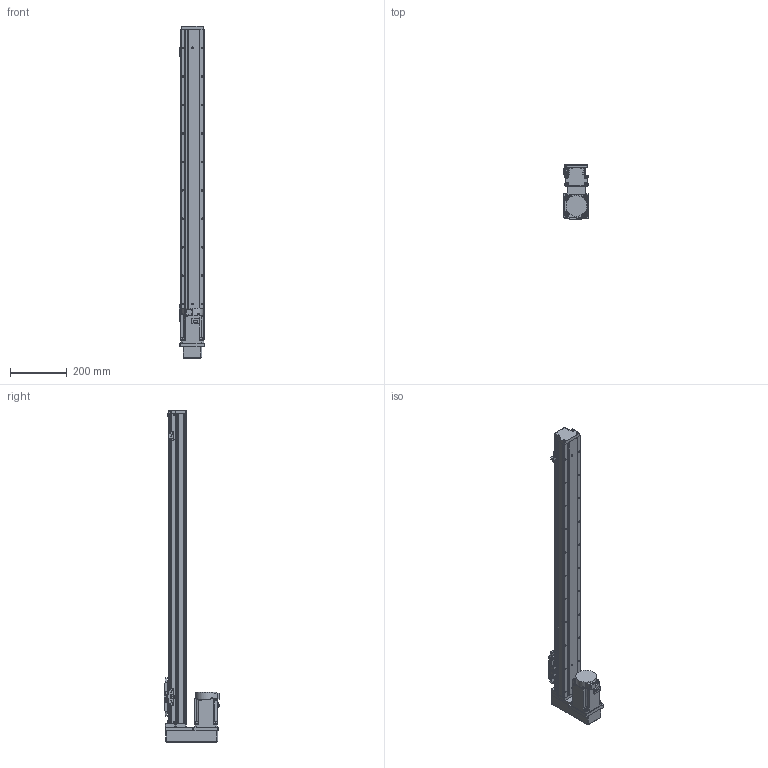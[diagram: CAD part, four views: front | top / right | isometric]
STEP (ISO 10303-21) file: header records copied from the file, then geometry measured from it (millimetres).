
FILE_DESCRIPTION (( 'STEP AP203' ), '1' );
FILE_NAME ('GTH8-900-BM-M75-C4.step', '2023-02-14T02:30:16', ( '微软用户' ), ( '微软中国' ), 'SwSTEP 2.0', 'SolidWorks 2020', '' );
FILE_SCHEMA (( 'CONFIG_CONTROL_DESIGN' ));
Length unit declared in the file: millimetre
Products named in the file (18): GTH80-022; BTH-M3X5X6; GTH80-001_900; GBT 70.1-M3℅6; CTHA86-015-3_CTHA86-015-4; GTH80-003; GBT 70.1-M4×16; CTHA86-035; GTH80-004; GTH80-028; hg-kn73j_-s100; GTH80-006; GTH50-024; GTH8-900-BM-M75-C4; GTH80-013; GTH50-023; GBT 70.3-M3℅6; GBT96.1-2002 3×0.8
Assembly tree (57 placements, depth 2):
  GTH8-900-BM-M75-C4
    GTH80-001_900
    GTH80-003
    GTH80-004
    GTH80-006
    GTH80-013
    GBT 70.3-M3℅6  x4
    GTH80-022
    GBT 70.1-M3℅6  x14
    GBT 70.1-M4×16  x8
    GTH80-028  x2
    GTH50-024  x3
    GTH50-023  x3
    GBT96.1-2002 3×0.8  x6
    BTH-M3X5X6  x8
    CTHA86-015-3_CTHA86-015-4
    CTHA86-035
    hg-kn73j_-s100
Bounding box: 89.4 x 195.3 x 1166 mm (x, y, z)
Volume: 6264247.2 mm3; surface area: 605998.2 mm2
Topology: 59 solids, 59 shells, 2207 faces, 5130 edges, 3144 vertices
Faces by surface type: plane 1153, cylinder 639, cone 243, torus 158, sphere 12, bspline 2
Entity records: 40032 total; most frequent: CARTESIAN_POINT 6719, DIRECTION 6613, ORIENTED_EDGE 6070, EDGE_CURVE 3035, AXIS2_PLACEMENT_3D 2338, VECTOR 1937, LINE 1937, VERTEX_POINT 1919
